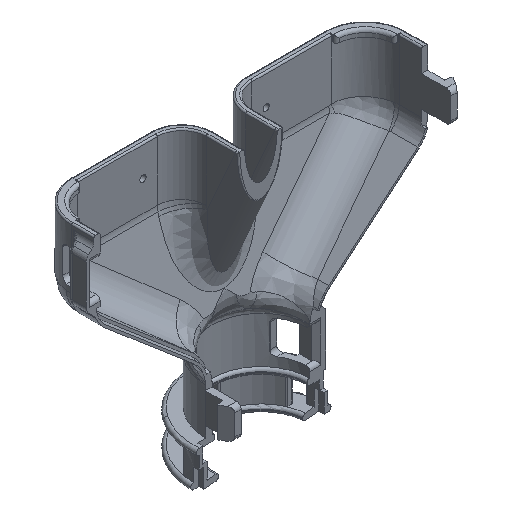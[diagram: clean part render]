
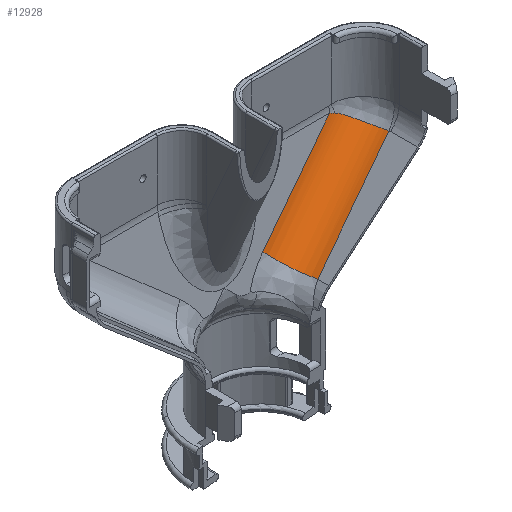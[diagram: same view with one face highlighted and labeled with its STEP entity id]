
A CAD part, isometric view. The second image highlights one B-rep face of the part: STEP entity #12928.
In plain terms, the highlighted cylindrical face has radius 11 mm (diameter 22 mm), a partial arc.
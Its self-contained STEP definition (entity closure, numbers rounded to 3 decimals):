
#4959=DIRECTION('',(-0.753,-0.148,-0.641));
#4960=VECTOR('',#4959,35.796);
#4961=CARTESIAN_POINT('',(40.414,18.095,-21.66));
#4962=LINE('',#4961,#4960);
#5083=CARTESIAN_POINT('',(13.445,2.084,-42.121));
#5084=DIRECTION('',(-0.753,-0.148,-0.641));
#5085=DIRECTION('',(0.,0.974,-0.225));
#5086=AXIS2_PLACEMENT_3D('',#5083,#5084,#5085);
#5228=DIRECTION('',(-0.753,-0.148,-0.641));
#5229=VECTOR('',#5228,38.264);
#5230=CARTESIAN_POINT('',(49.4,7.741,-25.985));
#5231=LINE('',#5230,#5229);
#5235=CARTESIAN_POINT('',(49.4,7.741,-25.985));
#5472=CARTESIAN_POINT('',(42.026,17.81,-22.36));
#5473=CARTESIAN_POINT('',(42.321,17.746,-22.456));
#5474=CARTESIAN_POINT('',(42.946,17.556,-22.75));
#5475=CARTESIAN_POINT('',(44.02,17.023,-23.398));
#5476=CARTESIAN_POINT('',(45.172,16.2,-24.131));
#5477=CARTESIAN_POINT('',(46.377,15.003,-24.881));
#5478=CARTESIAN_POINT('',(47.49,13.459,-25.513));
#5479=CARTESIAN_POINT('',(48.386,11.71,-25.928));
#5480=CARTESIAN_POINT('',(49.051,9.782,-26.11));
#5481=CARTESIAN_POINT('',(49.315,8.426,-26.057));
#5482=CARTESIAN_POINT('',(49.4,7.741,-25.985));
#5487=CARTESIAN_POINT('',(40.414,18.095,-21.66));
#5488=CARTESIAN_POINT('',(40.597,18.07,-21.769));
#5489=CARTESIAN_POINT('',(40.96,18.013,-21.967));
#5490=CARTESIAN_POINT('',(41.5,17.917,-22.189));
#5491=CARTESIAN_POINT('',(41.852,17.847,-22.308));
#5492=CARTESIAN_POINT('',(42.026,17.81,-22.36));
#7200=CARTESIAN_POINT('',(13.445,12.803,-44.594));
#7201=CARTESIAN_POINT('',(20.571,2.084,-50.5));
#7202=VERTEX_POINT('',#7200);
#7203=VERTEX_POINT('',#7201);
#7204=VERTEX_POINT('',#5235);
#7208=VERTEX_POINT('',#5472);
#7210=VERTEX_POINT('',#5487);
#12915=CARTESIAN_POINT('',(159.129,30.673,81.766));
#12916=DIRECTION('',(-0.753,-0.148,-0.641));
#12917=DIRECTION('',(0.,0.974,-0.225));
#12918=AXIS2_PLACEMENT_3D('',#12915,#12916,#12917);
#12919=CYLINDRICAL_SURFACE('',#12918,11.);
#12920=ORIENTED_EDGE('',*,*,#12906,.T.);
#12921=ORIENTED_EDGE('',*,*,#12568,.T.);
#12922=ORIENTED_EDGE('',*,*,#12433,.F.);
#12923=ORIENTED_EDGE('',*,*,#12255,.F.);
#12925=ORIENTED_EDGE('',*,*,#12924,.T.);
#12926=EDGE_LOOP('',(#12920,#12921,#12922,#12923,#12925));
#12927=FACE_OUTER_BOUND('',#12926,.F.);
#12928=ADVANCED_FACE('',(#12927),#12919,.F.);
#5087=CIRCLE('',#5086,11.);
#5483=B_SPLINE_CURVE_WITH_KNOTS('',3,(#5472,#5473,#5474,#5475,#5476,#5477,#5478,
#5479,#5480,#5481,#5482),.UNSPECIFIED.,.F.,.F.,(4,1,1,1,1,1,1,1,4),(0.,
0.125,0.25,0.375,0.5,0.625,0.75,0.875,1.),.UNSPECIFIED.);
#5493=B_SPLINE_CURVE_WITH_KNOTS('',3,(#5487,#5488,#5489,#5490,#5491,#5492),
.UNSPECIFIED.,.F.,.F.,(4,1,1,4),(0.,0.333,0.667,1.),
.UNSPECIFIED.);
#12255=EDGE_CURVE('',#7210,#7202,#4962,.T.);
#12433=EDGE_CURVE('',#7202,#7203,#5087,.T.);
#12568=EDGE_CURVE('',#7204,#7203,#5231,.T.);
#12906=EDGE_CURVE('',#7208,#7204,#5483,.T.);
#12924=EDGE_CURVE('',#7210,#7208,#5493,.T.);
